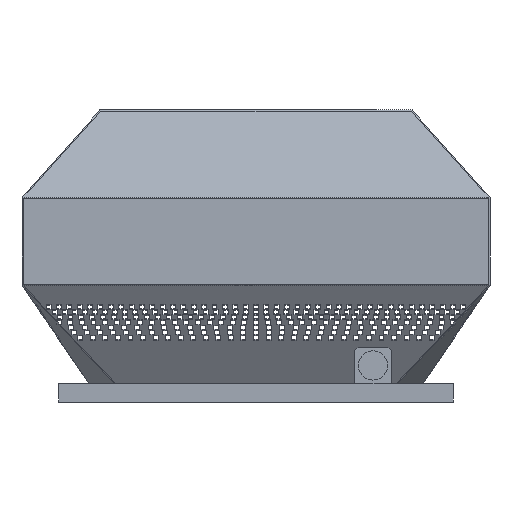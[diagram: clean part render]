
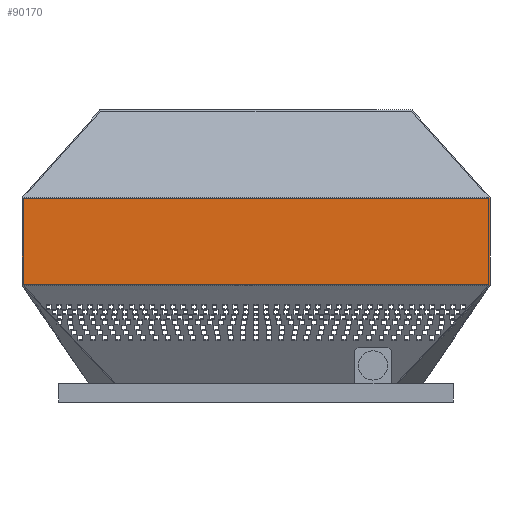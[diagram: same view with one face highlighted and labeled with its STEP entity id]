
A CAD part, left-side view. The second image highlights one B-rep face of the part: STEP entity #90170.
In plain terms, the highlighted planar face has unit normal (-1, 0, 0).
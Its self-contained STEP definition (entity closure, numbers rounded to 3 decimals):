
#7840=PLANE('',#94233);
#11855=FACE_OUTER_BOUND('',#17821,.T.);
#17821=EDGE_LOOP('',(#86120,#86121,#86122,#86123));
#18191=LINE('',#115099,#30229);
#29856=LINE('',#138449,#41894);
#29857=LINE('',#138452,#41895);
#29858=LINE('',#138453,#41896);
#30229=VECTOR('',#94843,10.);
#41894=VECTOR('',#114342,10.);
#41895=VECTOR('',#114345,10.);
#41896=VECTOR('',#114346,10.);
#42178=VERTEX_POINT('',#115096);
#42179=VERTEX_POINT('',#115098);
#49946=VERTEX_POINT('',#138445);
#49948=VERTEX_POINT('',#138451);
#50315=EDGE_CURVE('',#42179,#42178,#18191,.T.);
#62006=EDGE_CURVE('',#49946,#42179,#29856,.T.);
#62007=EDGE_CURVE('',#49948,#49946,#29857,.T.);
#62008=EDGE_CURVE('',#49948,#42178,#29858,.T.);
#86120=ORIENTED_EDGE('',*,*,#62007,.T.);
#86121=ORIENTED_EDGE('',*,*,#62006,.T.);
#86122=ORIENTED_EDGE('',*,*,#50315,.T.);
#86123=ORIENTED_EDGE('',*,*,#62008,.F.);
#90170=ADVANCED_FACE('',(#11855),#7840,.F.);
#94233=AXIS2_PLACEMENT_3D('',#138450,#114343,#114344);
#94843=DIRECTION('',(0.,-1.,0.));
#114342=DIRECTION('',(0.,0.,-1.));
#114343=DIRECTION('center_axis',(1.,0.,0.));
#114344=DIRECTION('ref_axis',(0.,0.,-1.));
#114345=DIRECTION('',(0.,1.,0.));
#114346=DIRECTION('',(0.,0.,-1.));
#115096=CARTESIAN_POINT('',(-382.5,-382.5,191.));
#115098=CARTESIAN_POINT('',(-382.5,382.5,191.));
#115099=CARTESIAN_POINT('',(-382.5,382.5,191.));
#138445=CARTESIAN_POINT('',(-382.5,382.5,334.25));
#138449=CARTESIAN_POINT('',(-382.5,382.5,334.25));
#138450=CARTESIAN_POINT('Origin',(-382.5,382.5,334.25));
#138451=CARTESIAN_POINT('',(-382.5,-382.5,334.25));
#138452=CARTESIAN_POINT('',(-382.5,382.5,334.25));
#138453=CARTESIAN_POINT('',(-382.5,-382.5,334.25));
